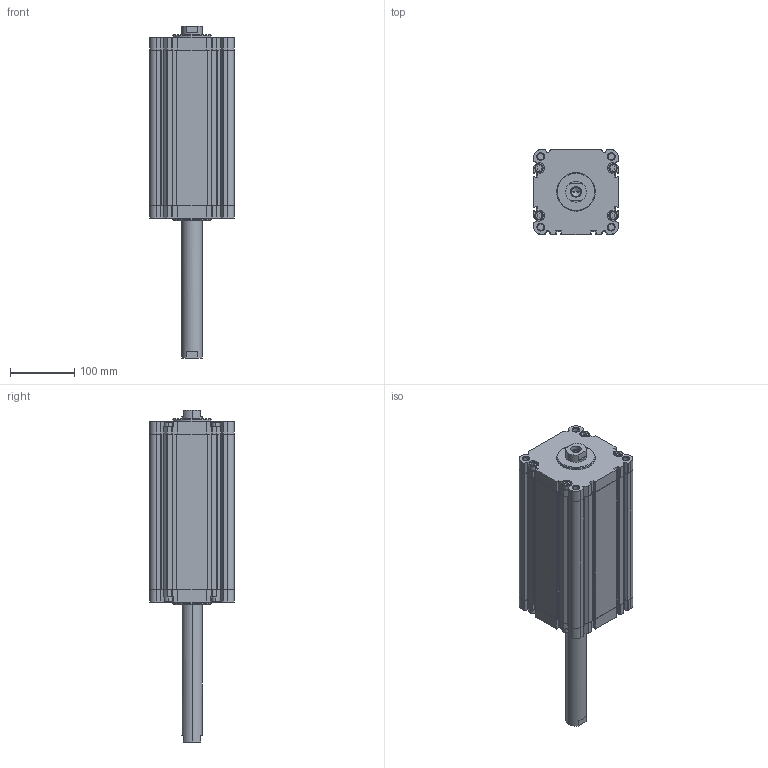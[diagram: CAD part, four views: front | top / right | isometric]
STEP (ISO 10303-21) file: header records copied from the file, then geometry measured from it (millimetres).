
FILE_DESCRIPTION (( 'STEP AP203' ), '1' );
FILE_NAME ('CDVU125-200F-P.STEP', '2020-07-24T18:46:01', ( '' ), ( '' ), 'SwSTEP 2.0', 'SolidWorks 2019', '' );
FILE_SCHEMA (( 'CONFIG_CONTROL_DESIGN' ));
Length unit declared in the file: millimetre
Products named in the file (1): CDVU125-200F-P
Bounding box: 132 x 132 x 517 mm (x, y, z)
Volume: 2626278.2 mm3; surface area: 408481.3 mm2
Topology: 2 solids, 2 shells, 666 faces, 1816 edges, 1184 vertices
Faces by surface type: plane 322, cylinder 276, cone 52, torus 16
Entity records: 21155 total; most frequent: DIRECTION 3778, CARTESIAN_POINT 3659, ORIENTED_EDGE 3616, EDGE_CURVE 1808, AXIS2_PLACEMENT_3D 1303, VERTEX_POINT 1184, VECTOR 1172, LINE 1172
